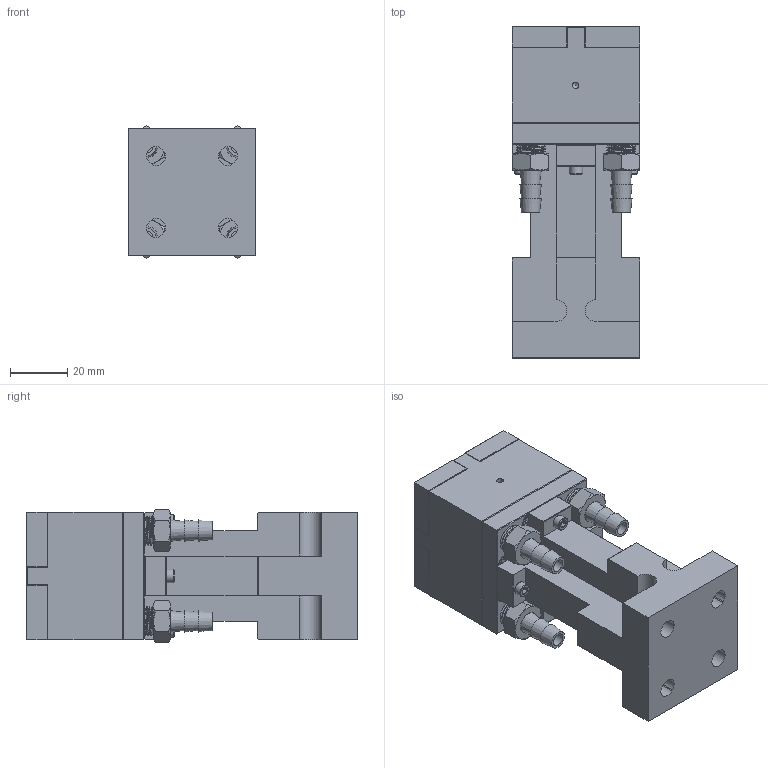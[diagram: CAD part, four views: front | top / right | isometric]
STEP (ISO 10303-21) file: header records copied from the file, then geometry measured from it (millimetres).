
FILE_DESCRIPTION(('', 'CAx-IF Rec.Pracs.---Representation and Presentation of Product Manufacturing Information (PMI)---4.0---2014-10-13'),'2;1');
FILE_NAME('C:/Users/JacobDiepeveen/OneDrive - Luminos/Documents/Jacob/CAD/PT Files/PT0255 3 & 6 Axis Height Matching Posts (includes PST001, PST002)/solids/web/Post Mounted Heat Exchanger.STP', '2024-08-27T20:45:42',('JD'), ('Luminos'), 'Kubotek Kosmos Version 5.0.12905.12905', 'KeyCreator Pro', '');
FILE_SCHEMA(('AP242_MANAGED_MODEL_BASED_3D_ENGINEERING_MIM_LF { 1 0 10303 442 4 1 4 }'));
Length unit declared in the file: inch
Bounding box: 44.45 x 116.02 x 46.41 mm (x, y, z)
Volume: 161453.8 mm3; surface area: 35073.1 mm2
Topology: 1 solids, 1 shells, 709 faces, 1537 edges, 903 vertices
Faces by surface type: plane 367, cone 253, cylinder 73, bspline 12, torus 4
Full cylindrical faces by diameter (mm): 2.261 x9, 4.496 x4, 4.648 x20, 4.762 x16, 6.35 x4
Entity records: 31461 total; most frequent: CARTESIAN_POINT 14044, ORIENTED_EDGE 3056, DIRECTION 3002, GENERAL_PROPERTY 2012, EDGE_CURVE 1528, AXIS2_PLACEMENT_3D 1112, VERTEX_POINT 903, EDGE_LOOP 799
